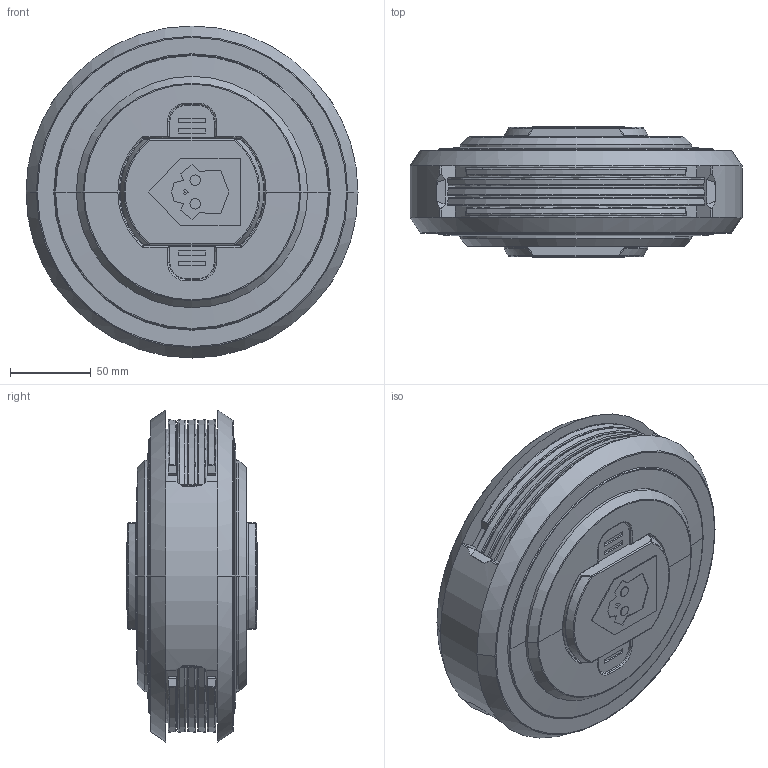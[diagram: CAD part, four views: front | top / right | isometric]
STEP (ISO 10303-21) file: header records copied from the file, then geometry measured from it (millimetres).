
FILE_DESCRIPTION(/* description */ ('STEP AP242 Edition 2','CAx-IF Rec.Pracs.---Representation and Presentation of Product Manufacturing Information (PMI)---4.0---2014-10-13','CAx-IF Rec.Pracs.---3D Tessellated Geometry---0.4---2014-09-14','2;1','CAx-IF Rec.Pracs.---User Defined Attributes---1.5---2016-08-15'),/* implementation_level */ '2;1');
FILE_NAME(/* name */ '69950a8b0da0a4d059cb8187',/* time_stamp */ '2026-02-18T00:40:50Z',/* author */ (''),/* organization */ (''),/* preprocessor_version */ 'ST-DEVELOPER v20',/* originating_system */ 'ONSHAPE BY PTC INC, 1.210',/* authorisation */ ' ');
FILE_SCHEMA (('AP242_MANAGED_MODEL_BASED_3D_ENGINEERING_MIM_LF { 1 0 10303 442 3 1 4 }'));
Length unit declared in the file: metre
Products named in the file (1): Part 1
Bounding box: 205.02 x 80.77 x 205.02 mm (x, y, z)
Volume: 1891392.3 mm3; surface area: 130765 mm2
Topology: 1 solids, 1 shells, 398 faces, 1042 edges, 660 vertices
Faces by surface type: bspline 398
Entity records: 14786 total; most frequent: CARTESIAN_POINT 6316, ORIENTED_EDGE 2052, DIRECTION 1121, EDGE_CURVE 1026, VERTEX_POINT 660, LINE 531, VECTOR 531, EDGE_LOOP 428
